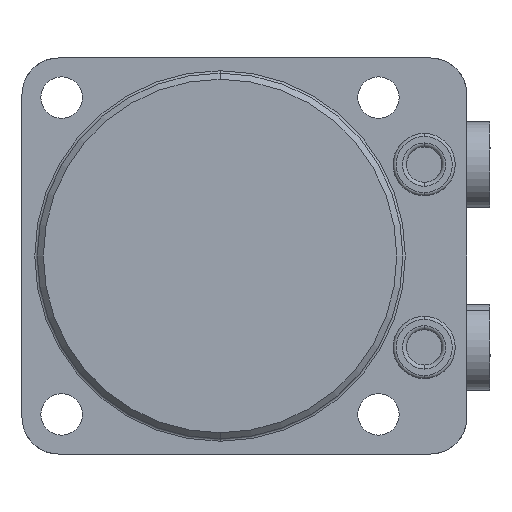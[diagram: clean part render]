
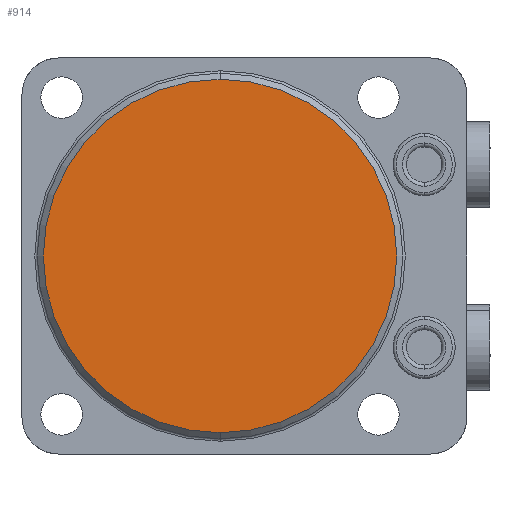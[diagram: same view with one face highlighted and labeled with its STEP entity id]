
A CAD part, front view. The second image highlights one B-rep face of the part: STEP entity #914.
In plain terms, the highlighted planar face has unit normal (0, -1, 0).
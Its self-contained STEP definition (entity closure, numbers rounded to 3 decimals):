
#235=PLANE('',#3872);
#914=ADVANCED_FACE('',(#1181),#235,.F.);
#1181=FACE_OUTER_BOUND('',#1395,.T.);
#1395=EDGE_LOOP('',(#1800,#1801));
#1800=ORIENTED_EDGE('',*,*,#3109,.T.);
#1801=ORIENTED_EDGE('',*,*,#3071,.T.);
#2740=VERTEX_POINT('',#5827);
#2741=VERTEX_POINT('',#5828);
#3071=EDGE_CURVE('',#2740,#2741,#3526,.T.);
#3109=EDGE_CURVE('',#2741,#2740,#3545,.T.);
#3526=CIRCLE('',#3843,29.);
#3545=CIRCLE('',#3871,29.);
#3843=AXIS2_PLACEMENT_3D('',#5826,#4509,#4510);
#3871=AXIS2_PLACEMENT_3D('',#5899,#4581,#4582);
#3872=AXIS2_PLACEMENT_3D('',#5900,#4583,#4584);
#4509=DIRECTION('',(0.,-1.,0.));
#4510=DIRECTION('',(0.,0.,1.));
#4581=DIRECTION('',(0.,-1.,0.));
#4582=DIRECTION('',(0.,0.,1.));
#4583=DIRECTION('',(0.,1.,0.));
#4584=DIRECTION('',(0.,0.,1.));
#5826=CARTESIAN_POINT('',(0.,-57.,0.));
#5827=CARTESIAN_POINT('',(0.,-57.,-29.));
#5828=CARTESIAN_POINT('',(0.,-57.,29.));
#5899=CARTESIAN_POINT('',(0.,-57.,0.));
#5900=CARTESIAN_POINT('',(0.,-57.,0.));
